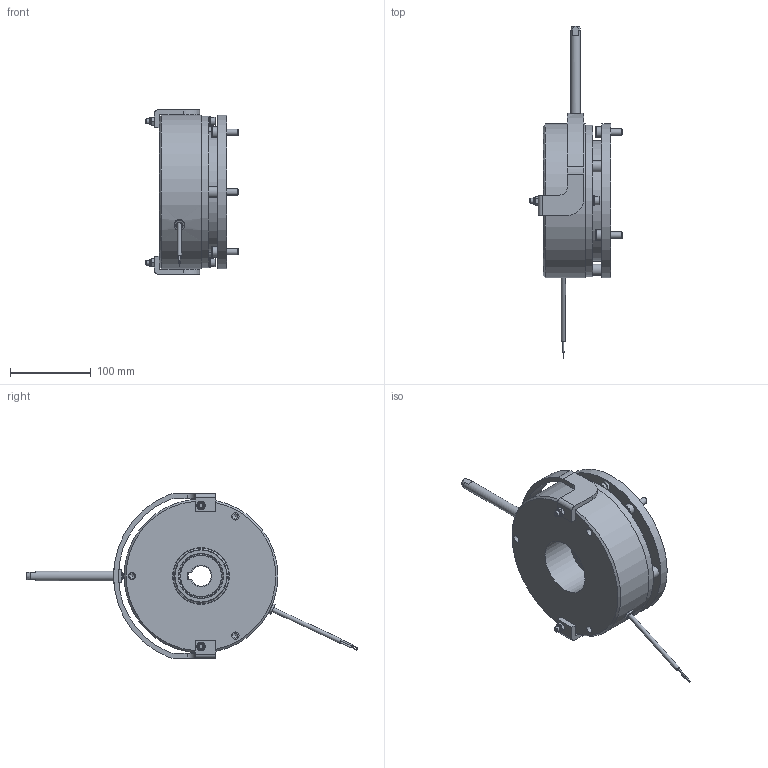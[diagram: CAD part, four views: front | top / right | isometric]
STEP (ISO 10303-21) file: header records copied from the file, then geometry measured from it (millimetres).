
FILE_DESCRIPTION(/* description */ (''),/* implementation_level */ '2;1');
FILE_NAME(/* name */ 'C:\SapWorkDir\Inventor\IP1\ConvertTempPath\5028586_IPT_000.ipt.stp',/* time_stamp */ '2020-09-03T14:14:20+02:00',/* author */ ('STRATE'),/* organization */ (''),/* preprocessor_version */ 'ST-DEVELOPER v17',/* originating_system */ 'Autodesk Inventor 2018',/* authorisation */ '');
FILE_SCHEMA (('AUTOMOTIVE_DESIGN { 1 0 10303 214 3 1 1 }'));
Length unit declared in the file: millimetre
Products named in the file (1): 5028586
Bounding box: 113.9 x 409.81 x 203 mm (x, y, z)
Volume: 2024331 mm3; surface area: 277724.9 mm2
Topology: 2 solids, 2 shells, 641 faces, 1811 edges, 1213 vertices
Faces by surface type: cylinder 300, plane 183, cone 130, torus 26, bspline 2
Full cylindrical faces by diameter (mm): 1 x2, 1.85 x2, 4.917 x2, 5 x1, 5.3 x1, 6 x10, 6.4 x2, 7 x1, 7.3 x2, 8 x5, 8.5 x3, 9 x6, 10 x4, 12 x5, 13 x3, 13.2 x1, 13.8 x3, 14 x1, 14.5 x6, 15.8 x3, 70 x3, 103.8 x2, 104.1 x2, 149 x1, 187 x1, 190 x2
Entity records: 27969 total; most frequent: CARTESIAN_POINT 10654, ORIENTED_EDGE 3610, DIRECTION 3436, EDGE_CURVE 1805, AXIS2_PLACEMENT_3D 1432, VERTEX_POINT 1213, CIRCLE 768, EDGE_LOOP 744
